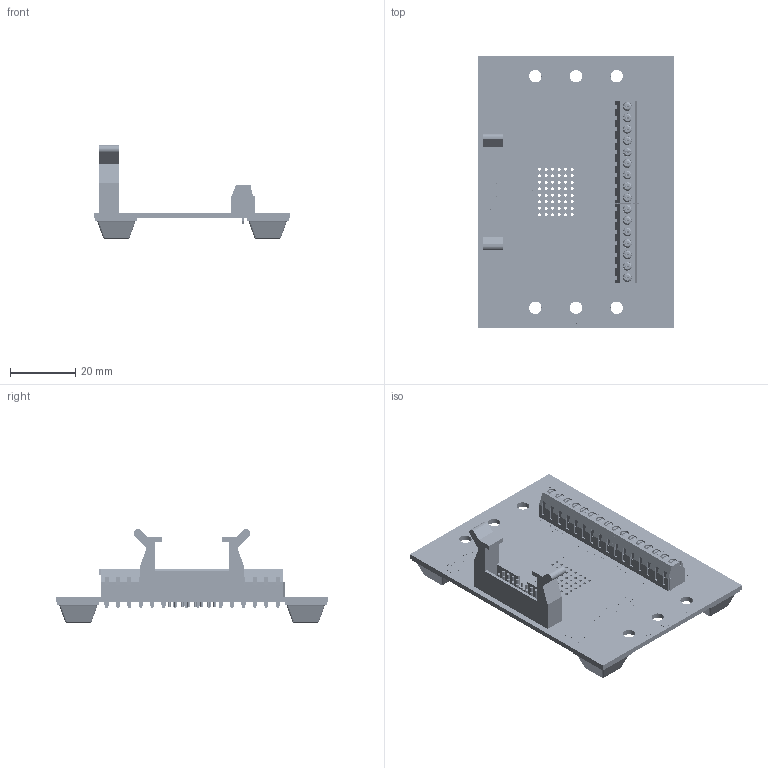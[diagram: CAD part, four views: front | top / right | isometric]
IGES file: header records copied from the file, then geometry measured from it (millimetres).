
Start section: SolidWorks IGES file using analytic representation for surfaces
Global section: file name: W:\end-user\products\brk\brk2h\brk2h2x8\3dmodel\2022-08-19_rev_a\render\brk2h2x8-l-ft_rev_a.igs; native system: SolidWorks 2018; preprocessor: SolidWorks 2018; author: leviroy; date: 220819.105432; units: inch
Bounding box: 60.45 x 83.82 x 28.79 mm (x, y, z)
Surface area: 19159.3 mm2 (no closed solid volume)
Topology: 0 solids, 0 shells, 3271 faces, 31608 edges, 31608 vertices
Faces by surface type: bspline 2620, revolution 651
